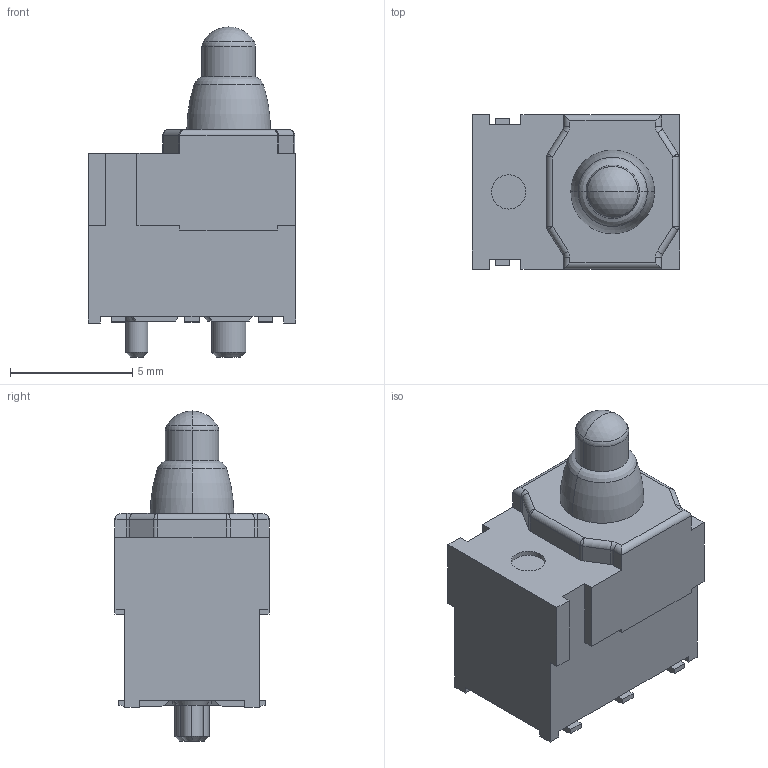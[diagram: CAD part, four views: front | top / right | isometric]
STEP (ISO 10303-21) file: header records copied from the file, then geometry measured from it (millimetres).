
FILE_DESCRIPTION (( 'STEP AP214' ), '1' );
FILE_NAME ('SPVQF10201.STEP', '2025-05-30T11:41:23', ( '' ), ( '' ), 'SwSTEP 2.0', 'SolidWorks 2023', '' );
FILE_SCHEMA (( 'AUTOMOTIVE_DESIGN' ));
Length unit declared in the file: millimetre
Products named in the file (1): SPVQF10201
Bounding box: 8.5 x 6.3 x 13.49 mm (x, y, z)
Volume: 389.1 mm3; surface area: 372.6 mm2
Topology: 1 solids, 1 shells, 170 faces, 436 edges, 275 vertices
Faces by surface type: plane 108, cylinder 36, torus 10, cone 10, sphere 6
Entity records: 5743 total; most frequent: CARTESIAN_POINT 894, ORIENTED_EDGE 872, DIRECTION 872, EDGE_CURVE 436, VECTOR 334, LINE 334, VERTEX_POINT 275, AXIS2_PLACEMENT_3D 269
